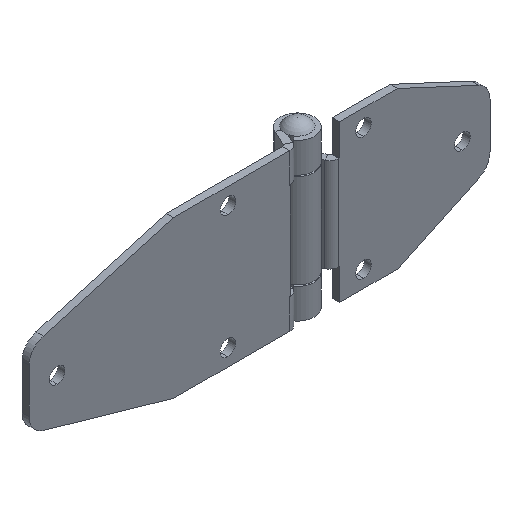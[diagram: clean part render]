
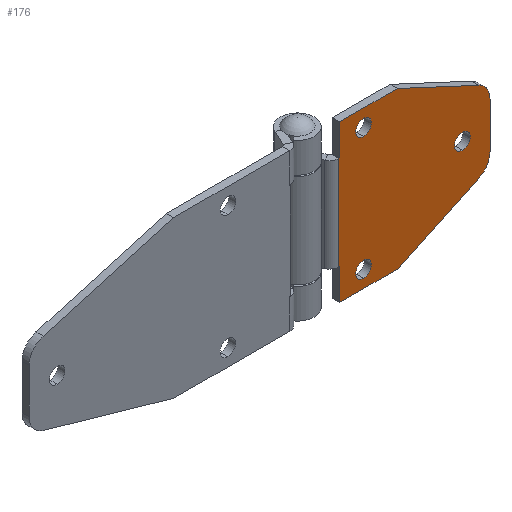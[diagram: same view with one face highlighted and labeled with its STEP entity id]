
A CAD part, isometric view. The second image highlights one B-rep face of the part: STEP entity #176.
In plain terms, the highlighted planar face has unit normal (0, -1, 0) as drawn and (0, 0, -1) by its records, which use the part's own axes.
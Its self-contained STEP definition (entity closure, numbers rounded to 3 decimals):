
#26 = EDGE_LOOP ( 'NONE', ( #32, #72 ) ) ;
#27 = VERTEX_POINT ( 'NONE', #880 ) ;
#30 = VERTEX_POINT ( 'NONE', #879 ) ;
#31 = ORIENTED_EDGE ( 'NONE', *, *, #91, .F. ) ;
#32 = ORIENTED_EDGE ( 'NONE', *, *, #33, .F. ) ;
#33 = EDGE_CURVE ( 'NONE', #105, #103, #878, .T. ) ;
#34 = EDGE_CURVE ( 'NONE', #35, #66, #873, .T. ) ;
#35 = VERTEX_POINT ( 'NONE', #869 ) ;
#36 = ORIENTED_EDGE ( 'NONE', *, *, #37, .F. ) ;
#37 = EDGE_CURVE ( 'NONE', #38, #35, #868, .T. ) ;
#38 = VERTEX_POINT ( 'NONE', #864 ) ;
#39 = ORIENTED_EDGE ( 'NONE', *, *, #40, .F. ) ;
#40 = EDGE_CURVE ( 'NONE', #41, #38, #927, .T. ) ;
#41 = VERTEX_POINT ( 'NONE', #923 ) ;
#42 = ORIENTED_EDGE ( 'NONE', *, *, #43, .T. ) ;
#43 = EDGE_CURVE ( 'NONE', #41, #44, #922, .T. ) ;
#44 = VERTEX_POINT ( 'NONE', #918 ) ;
#45 = ORIENTED_EDGE ( 'NONE', *, *, #52, .T. ) ;
#46 = VERTEX_POINT ( 'NONE', #917 ) ;
#52 = EDGE_CURVE ( 'NONE', #44, #46, #906, .T. ) ;
#53 = ORIENTED_EDGE ( 'NONE', *, *, #54, .F. ) ;
#54 = EDGE_CURVE ( 'NONE', #55, #46, #902, .T. ) ;
#55 = VERTEX_POINT ( 'NONE', #898 ) ;
#61 = ORIENTED_EDGE ( 'NONE', *, *, #62, .F. ) ;
#62 = EDGE_CURVE ( 'NONE', #76, #55, #953, .T. ) ;
#66 = VERTEX_POINT ( 'NONE', #943 ) ;
#67 = ORIENTED_EDGE ( 'NONE', *, *, #69, .T. ) ;
#68 = ORIENTED_EDGE ( 'NONE', *, *, #148, .F. ) ;
#69 = EDGE_CURVE ( 'NONE', #30, #150, #942, .T. ) ;
#70 = ORIENTED_EDGE ( 'NONE', *, *, #71, .T. ) ;
#71 = EDGE_CURVE ( 'NONE', #149, #27, #937, .T. ) ;
#72 = ORIENTED_EDGE ( 'NONE', *, *, #142, .F. ) ;
#73 = EDGE_LOOP ( 'NONE', ( #74, #67, #68, #70, #115, #117, #36, #39, #42, #45, #53, #61 ) ) ;
#74 = ORIENTED_EDGE ( 'NONE', *, *, #75, .T. ) ;
#75 = EDGE_CURVE ( 'NONE', #76, #30, #932, .T. ) ;
#76 = VERTEX_POINT ( 'NONE', #928 ) ;
#77 = EDGE_CURVE ( 'NONE', #158, #78, #992, .T. ) ;
#78 = VERTEX_POINT ( 'NONE', #987 ) ;
#89 = VERTEX_POINT ( 'NONE', #965 ) ;
#91 = EDGE_CURVE ( 'NONE', #89, #92, #964, .T. ) ;
#92 = VERTEX_POINT ( 'NONE', #1026 ) ;
#103 = VERTEX_POINT ( 'NONE', #1004 ) ;
#105 = VERTEX_POINT ( 'NONE', #1003 ) ;
#115 = ORIENTED_EDGE ( 'NONE', *, *, #116, .T. ) ;
#116 = EDGE_CURVE ( 'NONE', #27, #66, #1029, .T. ) ;
#117 = ORIENTED_EDGE ( 'NONE', *, *, #34, .F. ) ;
#142 = EDGE_CURVE ( 'NONE', #103, #105, #1108, .T. ) ;
#148 = EDGE_CURVE ( 'NONE', #149, #150, #1093, .T. ) ;
#149 = VERTEX_POINT ( 'NONE', #1089 ) ;
#150 = VERTEX_POINT ( 'NONE', #1088 ) ;
#158 = VERTEX_POINT ( 'NONE', #1142 ) ;
#176 = ADVANCED_FACE ( 'NONE', ( #1119, #1179, #1178, #1177 ), #1176, .F. ) ;
#177 = EDGE_LOOP ( 'NONE', ( #178, #180 ) ) ;
#178 = ORIENTED_EDGE ( 'NONE', *, *, #179, .F. ) ;
#179 = EDGE_CURVE ( 'NONE', #78, #158, #1171, .T. ) ;
#180 = ORIENTED_EDGE ( 'NONE', *, *, #77, .F. ) ;
#181 = EDGE_LOOP ( 'NONE', ( #182, #31 ) ) ;
#182 = ORIENTED_EDGE ( 'NONE', *, *, #183, .F. ) ;
#183 = EDGE_CURVE ( 'NONE', #92, #89, #1166, .T. ) ;
#864 = CARTESIAN_POINT ( 'NONE',  ( 52., 0., 0. ) ) ;
#865 = DIRECTION ( 'NONE',  ( 1., 0., 0. ) ) ;
#866 = VECTOR ( 'NONE', #865, 1000. ) ;
#867 = CARTESIAN_POINT ( 'NONE',  ( 0., 0., 0. ) ) ;
#868 = LINE ( 'NONE', #867, #866 ) ;
#869 = CARTESIAN_POINT ( 'NONE',  ( 65., 0., 0. ) ) ;
#870 = DIRECTION ( 'NONE',  ( 0., 1., 0. ) ) ;
#871 = VECTOR ( 'NONE', #870, 1000. ) ;
#872 = CARTESIAN_POINT ( 'NONE',  ( 65., 0., 0. ) ) ;
#873 = LINE ( 'NONE', #872, #871 ) ;
#874 = DIRECTION ( 'NONE',  ( -1., 0., 0. ) ) ;
#875 = DIRECTION ( 'NONE',  ( 0., 0., -1. ) ) ;
#876 = CARTESIAN_POINT ( 'NONE',  ( 58., 10., 0. ) ) ;
#877 = AXIS2_PLACEMENT_3D ( 'NONE', #876, #875, #874 ) ;
#878 = CIRCLE ( 'NONE', #877, 3.25 ) ;
#879 = CARTESIAN_POINT ( 'NONE',  ( 15.799, 57.881, 0. ) ) ;
#880 = CARTESIAN_POINT ( 'NONE',  ( 49.201, 57.881, 0. ) ) ;
#898 = CARTESIAN_POINT ( 'NONE',  ( 0., 0., 0. ) ) ;
#899 = DIRECTION ( 'NONE',  ( 1., 0., 0. ) ) ;
#900 = VECTOR ( 'NONE', #899, 1000. ) ;
#901 = CARTESIAN_POINT ( 'NONE',  ( 0., 0., 0. ) ) ;
#902 = LINE ( 'NONE', #901, #900 ) ;
#903 = DIRECTION ( 'NONE',  ( 0., 1., 0. ) ) ;
#904 = VECTOR ( 'NONE', #903, 1000. ) ;
#905 = CARTESIAN_POINT ( 'NONE',  ( 13., -0.1, 0. ) ) ;
#906 = LINE ( 'NONE', #905, #904 ) ;
#917 = CARTESIAN_POINT ( 'NONE',  ( 13., 0., 0. ) ) ;
#918 = CARTESIAN_POINT ( 'NONE',  ( 13., -0.263, 0. ) ) ;
#919 = DIRECTION ( 'NONE',  ( -1., 0., 0. ) ) ;
#920 = VECTOR ( 'NONE', #919, 1000. ) ;
#921 = CARTESIAN_POINT ( 'NONE',  ( 52., -0.263, 0. ) ) ;
#922 = LINE ( 'NONE', #921, #920 ) ;
#923 = CARTESIAN_POINT ( 'NONE',  ( 52., -0.263, 0. ) ) ;
#924 = DIRECTION ( 'NONE',  ( 0., 1., 0. ) ) ;
#925 = VECTOR ( 'NONE', #924, 1000. ) ;
#926 = CARTESIAN_POINT ( 'NONE',  ( 52., -0.1, 0. ) ) ;
#927 = LINE ( 'NONE', #926, #925 ) ;
#928 = CARTESIAN_POINT ( 'NONE',  ( 0., 24., 0. ) ) ;
#929 = DIRECTION ( 'NONE',  ( 0.423, 0.906, 0. ) ) ;
#930 = VECTOR ( 'NONE', #929, 1000. ) ;
#931 = CARTESIAN_POINT ( 'NONE',  ( -9.193, 4.287, 0. ) ) ;
#932 = LINE ( 'NONE', #931, #930 ) ;
#933 = DIRECTION ( 'NONE',  ( 1., 0., 0. ) ) ;
#934 = DIRECTION ( 'NONE',  ( 0., 0., -1. ) ) ;
#935 = CARTESIAN_POINT ( 'NONE',  ( 41.951, 54.5, 0. ) ) ;
#936 = AXIS2_PLACEMENT_3D ( 'NONE', #935, #934, #933 ) ;
#937 = CIRCLE ( 'NONE', #936, 8. ) ;
#938 = DIRECTION ( 'NONE',  ( 1., 0., 0. ) ) ;
#939 = DIRECTION ( 'NONE',  ( 0., 0., -1. ) ) ;
#940 = CARTESIAN_POINT ( 'NONE',  ( 23.049, 54.5, 0. ) ) ;
#941 = AXIS2_PLACEMENT_3D ( 'NONE', #940, #939, #938 ) ;
#942 = CIRCLE ( 'NONE', #941, 8. ) ;
#943 = CARTESIAN_POINT ( 'NONE',  ( 65., 24., 0. ) ) ;
#950 = DIRECTION ( 'NONE',  ( 0., -1., 0. ) ) ;
#951 = VECTOR ( 'NONE', #950, 1000. ) ;
#952 = CARTESIAN_POINT ( 'NONE',  ( 0., 62.5, 0. ) ) ;
#953 = LINE ( 'NONE', #952, #951 ) ;
#962 = CARTESIAN_POINT ( 'NONE',  ( 7., 10., 0. ) ) ;
#963 = AXIS2_PLACEMENT_3D ( 'NONE', #962, #1028, #1027 ) ;
#964 = CIRCLE ( 'NONE', #963, 3.25 ) ;
#965 = CARTESIAN_POINT ( 'NONE',  ( 10.25, 10., 0. ) ) ;
#987 = CARTESIAN_POINT ( 'NONE',  ( 29.25, 51., 0. ) ) ;
#988 = DIRECTION ( 'NONE',  ( -1., 0., 0. ) ) ;
#989 = DIRECTION ( 'NONE',  ( 0., 0., -1. ) ) ;
#990 = CARTESIAN_POINT ( 'NONE',  ( 32.5, 51., 0. ) ) ;
#991 = AXIS2_PLACEMENT_3D ( 'NONE', #990, #989, #988 ) ;
#992 = CIRCLE ( 'NONE', #991, 3.25 ) ;
#1003 = CARTESIAN_POINT ( 'NONE',  ( 54.75, 10., 0. ) ) ;
#1004 = CARTESIAN_POINT ( 'NONE',  ( 61.25, 10., 0. ) ) ;
#1026 = CARTESIAN_POINT ( 'NONE',  ( 3.75, 10., 0. ) ) ;
#1027 = DIRECTION ( 'NONE',  ( -1., 0., 0. ) ) ;
#1028 = DIRECTION ( 'NONE',  ( 0., 0., -1. ) ) ;
#1029 = LINE ( 'NONE', #1084, #1083 ) ;
#1082 = DIRECTION ( 'NONE',  ( 0.423, -0.906, 0. ) ) ;
#1083 = VECTOR ( 'NONE', #1082, 1000. ) ;
#1084 = CARTESIAN_POINT ( 'NONE',  ( 44.257, 68.484, 0. ) ) ;
#1088 = CARTESIAN_POINT ( 'NONE',  ( 23.049, 62.5, 0. ) ) ;
#1089 = CARTESIAN_POINT ( 'NONE',  ( 41.951, 62.5, 0. ) ) ;
#1090 = DIRECTION ( 'NONE',  ( -1., 0., 0. ) ) ;
#1091 = VECTOR ( 'NONE', #1090, 1000. ) ;
#1092 = CARTESIAN_POINT ( 'NONE',  ( 65., 62.5, 0. ) ) ;
#1093 = LINE ( 'NONE', #1092, #1091 ) ;
#1104 = DIRECTION ( 'NONE',  ( -1., 0., 0. ) ) ;
#1105 = DIRECTION ( 'NONE',  ( 0., 0., -1. ) ) ;
#1106 = CARTESIAN_POINT ( 'NONE',  ( 58., 10., 0. ) ) ;
#1107 = AXIS2_PLACEMENT_3D ( 'NONE', #1106, #1105, #1104 ) ;
#1108 = CIRCLE ( 'NONE', #1107, 3.25 ) ;
#1119 = FACE_BOUND ( 'NONE', #177, .T. ) ;
#1142 = CARTESIAN_POINT ( 'NONE',  ( 35.75, 51., 0. ) ) ;
#1162 = DIRECTION ( 'NONE',  ( -1., 0., 0. ) ) ;
#1163 = DIRECTION ( 'NONE',  ( 0., 0., -1. ) ) ;
#1164 = CARTESIAN_POINT ( 'NONE',  ( 7., 10., 0. ) ) ;
#1165 = AXIS2_PLACEMENT_3D ( 'NONE', #1164, #1163, #1162 ) ;
#1166 = CIRCLE ( 'NONE', #1165, 3.25 ) ;
#1167 = DIRECTION ( 'NONE',  ( -1., 0., 0. ) ) ;
#1168 = DIRECTION ( 'NONE',  ( 0., 0., -1. ) ) ;
#1169 = CARTESIAN_POINT ( 'NONE',  ( 32.5, 51., 0. ) ) ;
#1170 = AXIS2_PLACEMENT_3D ( 'NONE', #1169, #1168, #1167 ) ;
#1171 = CIRCLE ( 'NONE', #1170, 3.25 ) ;
#1172 = DIRECTION ( 'NONE',  ( 1., 0., 0. ) ) ;
#1173 = DIRECTION ( 'NONE',  ( 0., 0., 1. ) ) ;
#1174 = CARTESIAN_POINT ( 'NONE',  ( 0., 0., 0. ) ) ;
#1175 = AXIS2_PLACEMENT_3D ( 'NONE', #1174, #1173, #1172 ) ;
#1176 = PLANE ( 'NONE',  #1175 ) ;
#1177 = FACE_OUTER_BOUND ( 'NONE', #73, .T. ) ;
#1178 = FACE_BOUND ( 'NONE', #26, .T. ) ;
#1179 = FACE_BOUND ( 'NONE', #181, .T. ) ;
